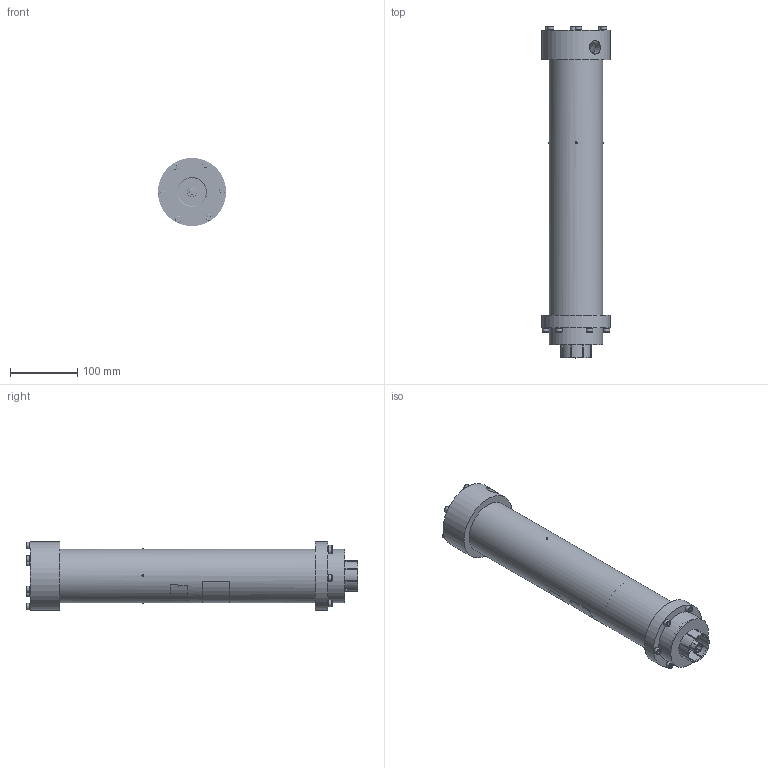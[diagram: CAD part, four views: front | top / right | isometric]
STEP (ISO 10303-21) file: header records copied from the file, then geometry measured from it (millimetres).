
FILE_DESCRIPTION(/* description */ ('Unknown'),/* implementation_level */ '2;1');
FILE_NAME(/* name */ '8720A300_Rev SA STEP',/* time_stamp */ '2021-02-17T09:24:23-05:00',/* author */ ('Unknown'),/* organization */ ('Unknown'),/* preprocessor_version */ 'ST-DEVELOPER v16.7',/* originating_system */ 'Solid Edge',/* authorisation */ 'Unknown');
FILE_SCHEMA (('AUTOMOTIVE_DESIGN {1 0 10303 214 3 1 1}'));
Products named in the file (1): 8720A300_3d
Bounding box: 101.6 x 494.32 x 101.6 mm (x, y, z)
Volume: 908772.8 mm3; surface area: 341720.1 mm2
Topology: 1 solids, 1 shells, 1150 faces, 3950 edges, 2847 vertices
Faces by surface type: plane 448, cylinder 286, torus 248, cone 140, bspline 24, sphere 4
Full cylindrical faces by diameter (mm): 1.524 x8, 4.826 x1, 4.976 x126, 5.207 x1, 5.232 x1, 6.35 x18, 7.811 x1, 9.525 x12, 11.906 x1, 13.97 x1, 14.783 x1, 14.859 x1, 16.002 x2, 16.586 x2, 16.588 x2, 16.866 x1, 16.891 x2, 17.018 x1, 18.796 x1, 18.923 x1, 19.05 x2, 20.097 x1, 23.876 x1, 24.13 x1, 27.94 x1, 32.004 x1, 33.401 x2, 33.782 x1, 38.811 x1, 41.453 x1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
Entity records: 67816 total; most frequent: CARTESIAN_POINT 32782, ORIENTED_EDGE 6460, DIRECTION 5434, EDGE_CURVE 3230, VERTEX_POINT 2441, AXIS2_PLACEMENT_3D 2353, FACE_BOUND 1387, EDGE_LOOP 1381
